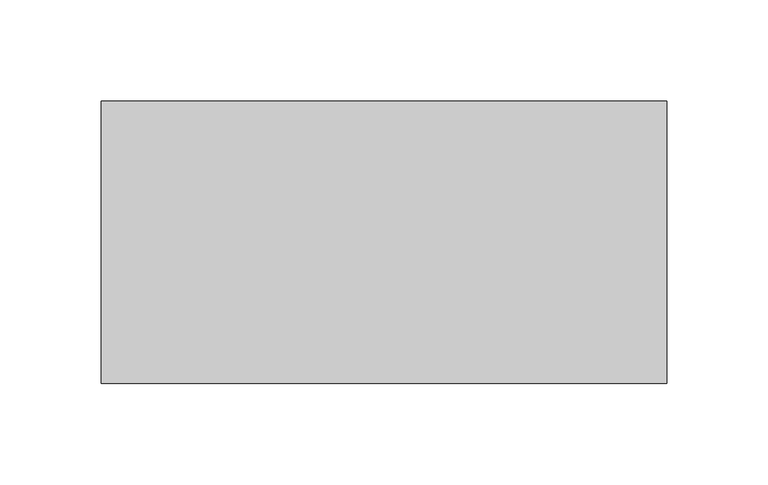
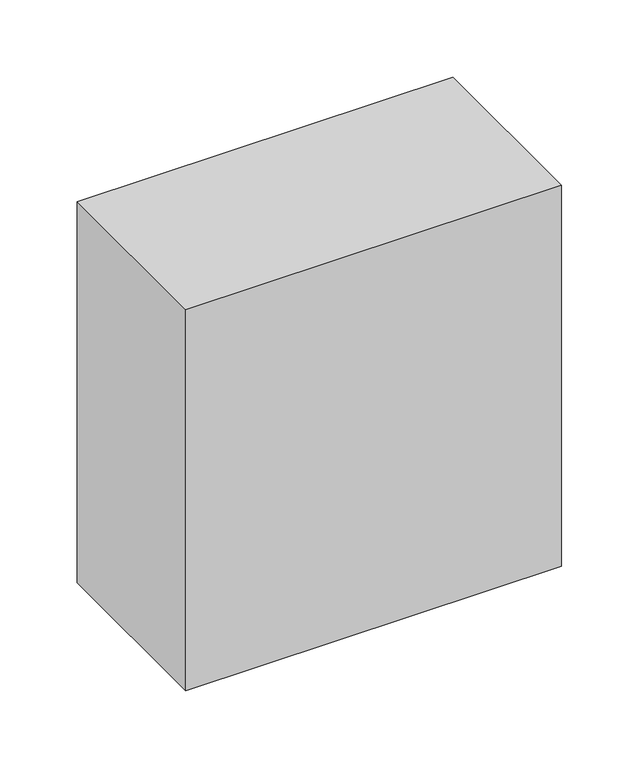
"""IFC4 building model written with IfcOpenShell, lengths in millimetres: proxy geometry."""

from ifc_helpers import new_model, si_unit, frame, origin, place, context, project, spatial, polyline, outline, extrude, source, transform, mapped, element, save


def structural_framing_47468200(model_context):
    return source(origin(), model_context, "Body", "SweptSolid", [
        extrude(outline(polyline([(-140.0, -70.0), (-140.0, 70.0), (140.0, 70.0), (140.0, -70.0), (-140.0, -70.0)])), frame((0.0, 0.0, -300.0), z_axis=(0.0, 0.0, 1.0), x_axis=(1.0, 0.0, 0.0)), (0.0, 0.0, 1.0), 300.0),
    ])


if __name__ == "__main__":
    model = new_model("IFC4")
    model_context = context("Model", 3, world=origin())
    ifc_project = project(units=[si_unit("LENGTHUNIT", "METRE", prefix="MILLI")], contexts=[model_context])
    site = spatial("IfcSite", under=ifc_project)
    building = spatial("IfcBuilding", under=site)
    placement = place(None, origin())
    structural_framing_shape = structural_framing_47468200(model_context)
    element("IfcBuildingElementProxy", 1, Name="Structural Framing", at=placement, inside=building, context=model_context, shape_type="MappedRepresentation", body=[
        mapped(structural_framing_shape, transform((0.0, 0.0, 0.0), x_axis=(1.0, 0.0, 0.0), y_axis=(0.0, 1.0, 0.0), z_axis=(0.0, 0.0, 1.0))),
    ])
    save(model, "model.ifc")
